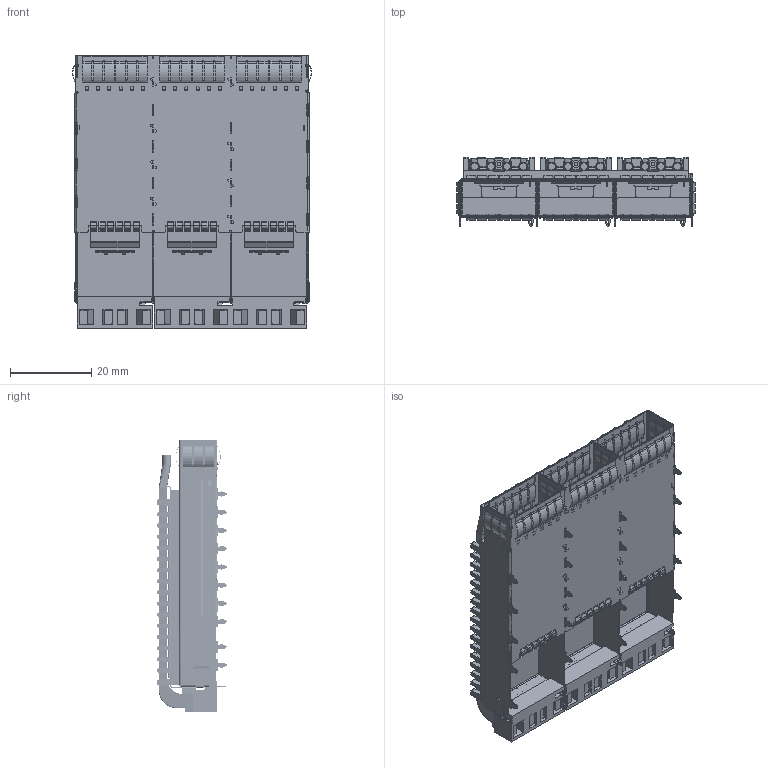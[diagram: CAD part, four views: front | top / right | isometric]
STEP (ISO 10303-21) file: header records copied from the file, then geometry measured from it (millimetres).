
FILE_DESCRIPTION(/* description */ (''),/* implementation_level */ '2;1');
FILE_NAME(/* name */ 'HT10-5013122-20S.stp',/* time_stamp */ '2026-08-29T16:50:05+08:00',/* author */ (''),/* organization */ (''),/* preprocessor_version */ 'ST-DEVELOPER v16.7',/* originating_system */ 'SIEMENS PLM Software NX 1847',/* authorisation */ '');
FILE_SCHEMA (('AUTOMOTIVE_DESIGN { 1 0 10303 214 3 1 1 1 }'));
Products named in the file (1): Admi29F470BBif7l
Bounding box: 58.91 x 17.15 x 67.25 mm (x, y, z)
Volume: 15424.2 mm3; surface area: 35986.8 mm2
Topology: 1 solids, 10 shells, 7271 faces, 19095 edges, 11903 vertices
Faces by surface type: plane 4428, cylinder 2517, bspline 281, cone 24, torus 21
Entity records: 250788 total; most frequent: CARTESIAN_POINT 52432, ORIENTED_EDGE 38168, DIRECTION 37291, EDGE_CURVE 19084, LINE 12993, VECTOR 12993, AXIS2_PLACEMENT_3D 12149, VERTEX_POINT 11904
